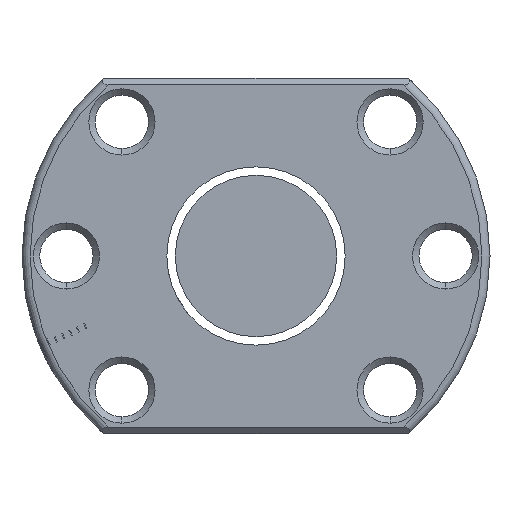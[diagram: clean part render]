
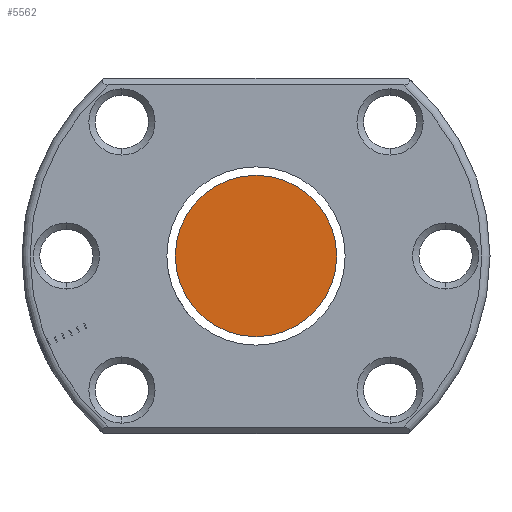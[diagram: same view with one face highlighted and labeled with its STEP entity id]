
A CAD part, left-side view. The second image highlights one B-rep face of the part: STEP entity #5562.
In plain terms, the highlighted planar face has unit normal (-1, 0, 0).
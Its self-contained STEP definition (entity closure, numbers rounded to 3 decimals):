
#405 = ORIENTED_EDGE ( 'NONE', *, *, #740, .F. ) ;
#493 = CIRCLE ( 'NONE', #5167, 10. ) ;
#740 = EDGE_CURVE ( 'NONE', #3173, #4337, #6016, .T. ) ;
#789 = FACE_OUTER_BOUND ( 'NONE', #4968, .T. ) ;
#805 = DIRECTION ( 'NONE',  ( 1., 0., 0. ) ) ;
#817 = DIRECTION ( 'NONE',  ( -1., 0., 0. ) ) ;
#1005 = DIRECTION ( 'NONE',  ( 0., 0., -1. ) ) ;
#1230 = CARTESIAN_POINT ( 'NONE',  ( -270., 0., -10. ) ) ;
#1304 = PLANE ( 'NONE',  #3210 ) ;
#1786 = DIRECTION ( 'NONE',  ( 0., 0., -1. ) ) ;
#2009 = AXIS2_PLACEMENT_3D ( 'NONE', #5995, #5074, #1005 ) ;
#2407 = CARTESIAN_POINT ( 'NONE',  ( -270., 0., 10. ) ) ;
#2639 = CARTESIAN_POINT ( 'NONE',  ( -270., 0., 0. ) ) ;
#3173 = VERTEX_POINT ( 'NONE', #2407 ) ;
#3210 = AXIS2_PLACEMENT_3D ( 'NONE', #2639, #817, #5012 ) ;
#3593 = CARTESIAN_POINT ( 'NONE',  ( -270., 0., 0. ) ) ;
#4337 = VERTEX_POINT ( 'NONE', #1230 ) ;
#4392 = EDGE_CURVE ( 'NONE', #4337, #3173, #493, .T. ) ;
#4968 = EDGE_LOOP ( 'NONE', ( #5030, #405 ) ) ;
#5012 = DIRECTION ( 'NONE',  ( 0., 0., 1. ) ) ;
#5030 = ORIENTED_EDGE ( 'NONE', *, *, #4392, .F. ) ;
#5074 = DIRECTION ( 'NONE',  ( 1., 0., 0. ) ) ;
#5167 = AXIS2_PLACEMENT_3D ( 'NONE', #3593, #805, #1786 ) ;
#5562 = ADVANCED_FACE ( 'NONE', ( #789 ), #1304, .T. ) ;
#5995 = CARTESIAN_POINT ( 'NONE',  ( -270., 0., 0. ) ) ;
#6016 = CIRCLE ( 'NONE', #2009, 10. ) ;
